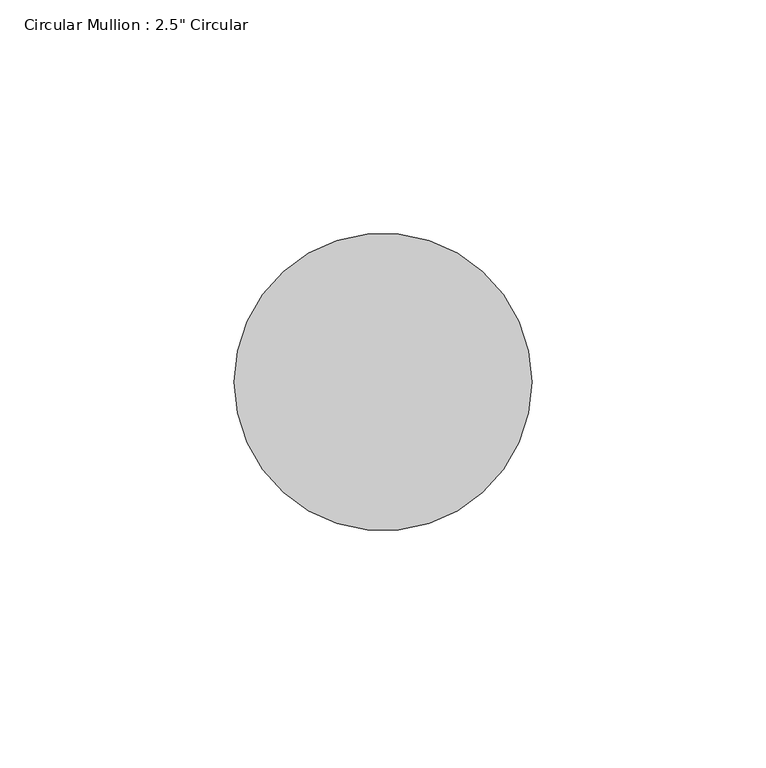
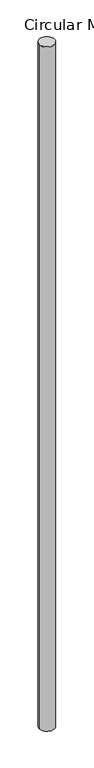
"""IFC4 building model written with IfcOpenShell, lengths in millimetres: member geometry."""

from ifc_helpers import new_model, si_unit, point, frame, origin, origin_2d, place, context, project, spatial, circle_curve, trimmed, segment, composite_curve, outline, extrude, source, transform, mapped, element, save


def member_0225935b(model_context):
    return source(origin(), model_context, "Body", "SweptSolid", [
        extrude(outline(composite_curve([segment(trimmed(circle_curve(origin_2d(), 31.75), [point((31.75, 0.0))], [point((-31.75, 0.0))], False, "CARTESIAN"), True, "CONTINUOUS"), segment(trimmed(circle_curve(origin_2d(), 31.75), [point((-31.75, 0.0))], [point((31.75, 0.0))], False, "CARTESIAN"), True, "CONTINUOUS")], self_intersect=False)), frame((0.0, 0.0, -2971.5275926), z_axis=(0.0, 0.0, 1.0), x_axis=(1.0, 0.0, 0.0)), (0.0, 0.0, 1.0), 2971.5275926),
    ])


if __name__ == "__main__":
    model = new_model("IFC4")
    model_context = context("Model", 3, world=origin())
    ifc_project = project(units=[si_unit("LENGTHUNIT", "METRE", prefix="MILLI")], contexts=[model_context])
    site = spatial("IfcSite", under=ifc_project)
    building = spatial("IfcBuilding", under=site)
    placement = place(None, origin())
    member_shape = member_0225935b(model_context)
    element("IfcMember", 1, ObjectType="Circular Mullion : 2.5\" Circular", at=placement, inside=building, context=model_context, shape_type="MappedRepresentation", body=[
        mapped(member_shape, transform((0.0, 0.0, 0.0), x_axis=(1.0, 0.0, 0.0), y_axis=(0.0, 1.0, 0.0), z_axis=(0.0, 0.0, 1.0))),
    ])
    save(model, "model.ifc")
